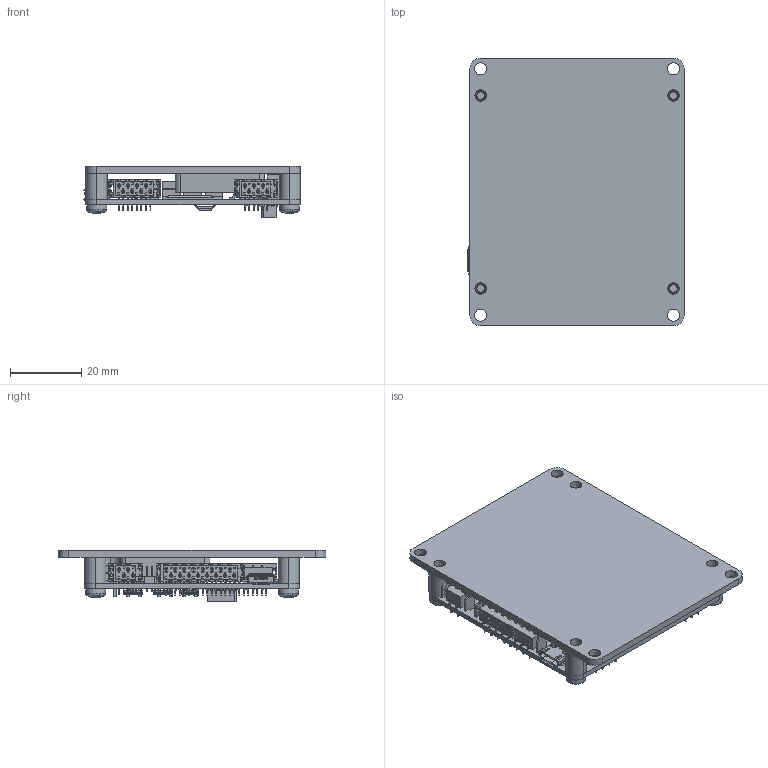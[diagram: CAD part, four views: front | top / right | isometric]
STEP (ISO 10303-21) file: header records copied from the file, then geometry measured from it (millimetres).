
FILE_DESCRIPTION (( 'STEP AP214' ), '1' );
FILE_NAME ('i038-01H1.STEP', '2015-11-05T17:03:10', ( '' ), ( '' ), 'SwSTEP 2.0', 'SolidWorks 2014', '' );
FILE_SCHEMA (( 'AUTOMOTIVE_DESIGN' ));
Length unit declared in the file: millimetre
Products named in the file (5): i021-04M1; i038-01H1; NIX
Assembly tree (2 placements, depth 2):
  i038-01H1
    NIX
    i021-04M1
  NIX
  i021-04M1
Bounding box: 60.69 x 75 x 14.55 mm (x, y, z)
Volume: 13248.2 mm3; surface area: 28852.5 mm2
Topology: 1 solids, 847 shells, 8646 faces, 25665 edges, 18174 vertices
Faces by surface type: plane 6569, cylinder 1923, bspline 70, sphere 42, cone 27, torus 15
Full cylindrical faces by diameter (mm): 0.3 x3, 0.4 x2, 0.527 x1, 0.7 x2, 1 x3, 1.4 x7, 3.2 x8, 3.4 x4, 5.6 x4
Entity records: 390190 total; most frequent: CARTESIAN_POINT 62664, ORIENTED_EDGE 47406, DIRECTION 45808, EDGE_CURVE 25579, VECTOR 20838, LINE 20838, VERTEX_POINT 18158, AXIS2_PLACEMENT_3D 12485
